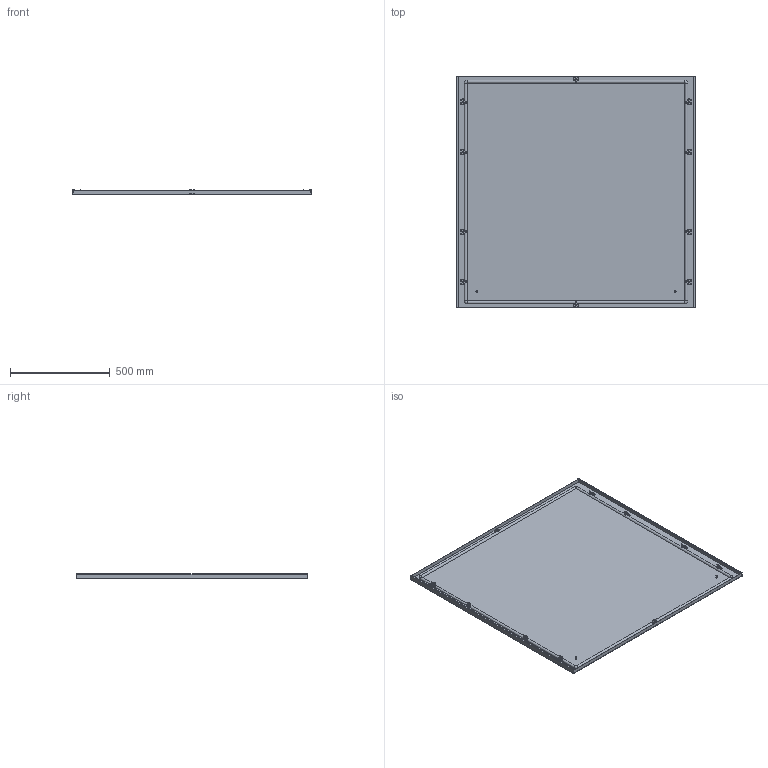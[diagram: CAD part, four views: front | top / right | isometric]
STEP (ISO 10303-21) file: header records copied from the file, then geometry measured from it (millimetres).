
FILE_DESCRIPTION(('Open CASCADE Model'),'2;1');
FILE_NAME('Open CASCADE Shape Model','2025-02-07T16:30:55',('Author'),( 'Open CASCADE'),'Open CASCADE STEP processor 7.8','Open CASCADE 7.8' ,'Unknown');
FILE_SCHEMA(('AUTOMOTIVE_DESIGN { 1 0 10303 214 1 1 1 1 }'));
Length unit declared in the file: millimetre
Products named in the file (10): Compound1; Compound2; Compound3; Solid1; Solid2; Solid3; Solid4; Solid5; Solid6; Solid7
Assembly tree (46 placements, depth 4):
  Compound1
    Compound2
      Compound3
        Solid1
        Solid2  x4
      Solid3
    Solid4  x10
    Solid5  x8
    Solid6  x10
    Solid7  x10
Bounding box: 1194 x 1155 x 23.8 mm (x, y, z)
Volume: 2650761.2 mm3; surface area: 3196163.4 mm2
Topology: 44 solids, 44 shells, 1897 faces, 4610 edges, 2804 vertices
Faces by surface type: plane 1157, cone 384, cylinder 312, torus 34, bspline 10
Full cylindrical faces by diameter (mm): 5 x20, 6 x164, 7.5 x4, 8 x20, 10 x10, 11.57 x10
Entity records: 7881 total; most frequent: CARTESIAN_POINT 1467, DIRECTION 1289, ORIENTED_EDGE 1256, EDGE_CURVE 628, AXIS2_PLACEMENT_3D 440, LINE 409, VECTOR 409, VERTEX_POINT 391
